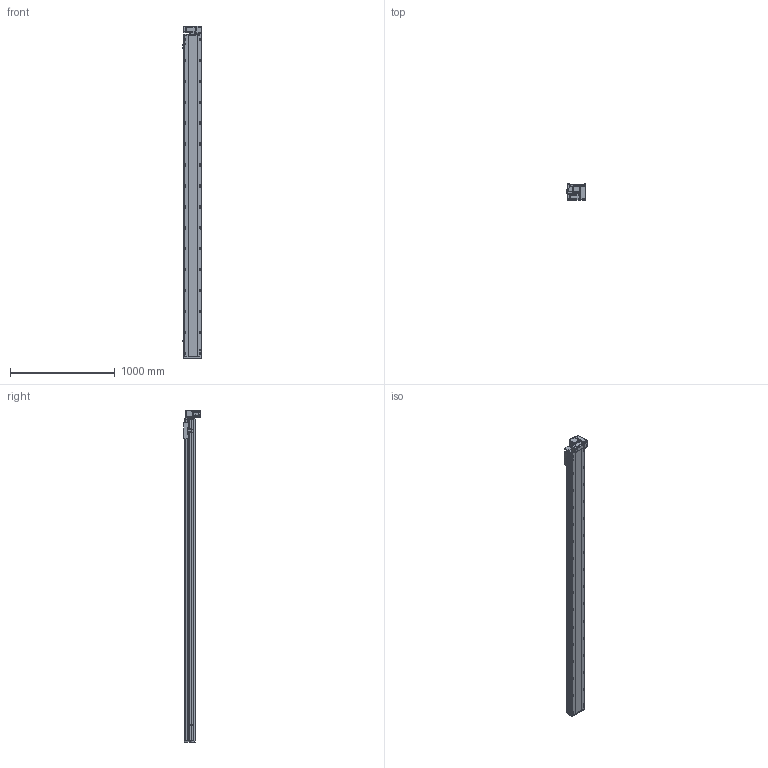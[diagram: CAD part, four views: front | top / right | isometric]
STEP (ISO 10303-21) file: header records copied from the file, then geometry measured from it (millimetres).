
FILE_DESCRIPTION (( 'STEP AP214' ), '1' );
FILE_NAME ('RTB17S-XX-2800-RM-M40-C4.STEP', '2025-12-11T08:33:28', ( '' ), ( '' ), 'SwSTEP 2.0', 'SolidWorks 2018', '' );
FILE_SCHEMA (( 'AUTOMOTIVE_DESIGN' ));
Length unit declared in the file: millimetre
Products named in the file (14): RTB17S-L-007奻裔^RTB17S-XX-XX-RM-M40-C4; OMRON EE-SX672 传感器^RTB17S-XX-XX-RM-M40-C4; RTH13-BL-012覜茼え俋离^RTB17S-XX-XX-RM-M40-C4; RTB17S-XX-2800-RM-M40-C4; RTB17S-RM-々湍釱蚾饜-400W^RTB17S-XX-XX-RM-M40-C4; RTB17-R-011菁釱^RTB17S-XX-XX-RM-M40-C4; RTB14-L-017P^RTB17S-RM-々湍釱蚾饜-400W_RTB17S-XX-XX-RM-M40-C4; RTB14-L-005P--轴承塑胶压盖^RTB17S-RM-皮带座装配-400W_RTB17S-XX-XX-RM-M40-C4; RTB14-L-008-M20--萇儂啣^RTB17S-RM-々湍釱蚾饜-400W_RTB17S-XX-XX-RM-M40-C4; RTB17S-L-014-T20--々湍釱^RTB17S-RM-々湍釱蚾饜-400W_RTB17S-XX-XX-RM-M40-C4; 400W侜督萇儂^RTB17S-XX-XX-RM-M40-C4; RTB14-L-018P^RTB17S-RM-々湍釱蚾饜-400W_RTB17S-XX-XX-RM-M40-C4; RTB17S-L-004佪裝蹟譫蟀諉釱^RTB17S-XX-XX-RM-M40-C4; RTB17S-L-001耜醱啣^RTB17S-XX-XX-RM-M40-C4
Assembly tree (16 placements, depth 3):
  RTB17S-XX-2800-RM-M40-C4
    RTB17-R-011菁釱^RTB17S-XX-XX-RM-M40-C4
    RTB17S-L-007奻裔^RTB17S-XX-XX-RM-M40-C4
    OMRON EE-SX672 传感器^RTB17S-XX-XX-RM-M40-C4  x3
    RTB17S-L-001耜醱啣^RTB17S-XX-XX-RM-M40-C4
    400W侜督萇儂^RTB17S-XX-XX-RM-M40-C4
    RTB17S-L-004佪裝蹟譫蟀諉釱^RTB17S-XX-XX-RM-M40-C4
    RTH13-BL-012覜茼え俋离^RTB17S-XX-XX-RM-M40-C4
    RTB17S-RM-々湍釱蚾饜-400W^RTB17S-XX-XX-RM-M40-C4
      RTB17S-L-014-T20--々湍釱^RTB17S-RM-々湍釱蚾饜-400W_RTB17S-XX-XX-RM-M40-C4
      RTB14-L-005P--轴承塑胶压盖^RTB17S-RM-皮带座装配-400W_RTB17S-XX-XX-RM-M40-C4
      RTB14-L-008-M20--萇儂啣^RTB17S-RM-々湍釱蚾饜-400W_RTB17S-XX-XX-RM-M40-C4
      RTB14-L-017P^RTB17S-RM-々湍釱蚾饜-400W_RTB17S-XX-XX-RM-M40-C4  x2
      RTB14-L-018P^RTB17S-RM-々湍釱蚾饜-400W_RTB17S-XX-XX-RM-M40-C4
Bounding box: 183.5 x 156.5 x 3172.5 mm (x, y, z)
Volume: 27055815.2 mm3; surface area: 3097890 mm2
Topology: 15 solids, 15 shells, 2349 faces, 6573 edges, 4293 vertices
Faces by surface type: plane 1086, cylinder 815, bspline 301, cone 139, torus 8
Entity records: 69545 total; most frequent: CARTESIAN_POINT 19778, ORIENTED_EDGE 9990, DIRECTION 9206, EDGE_CURVE 4995, VERTEX_POINT 3281, AXIS2_PLACEMENT_3D 3211, VECTOR 2784, LINE 2784
